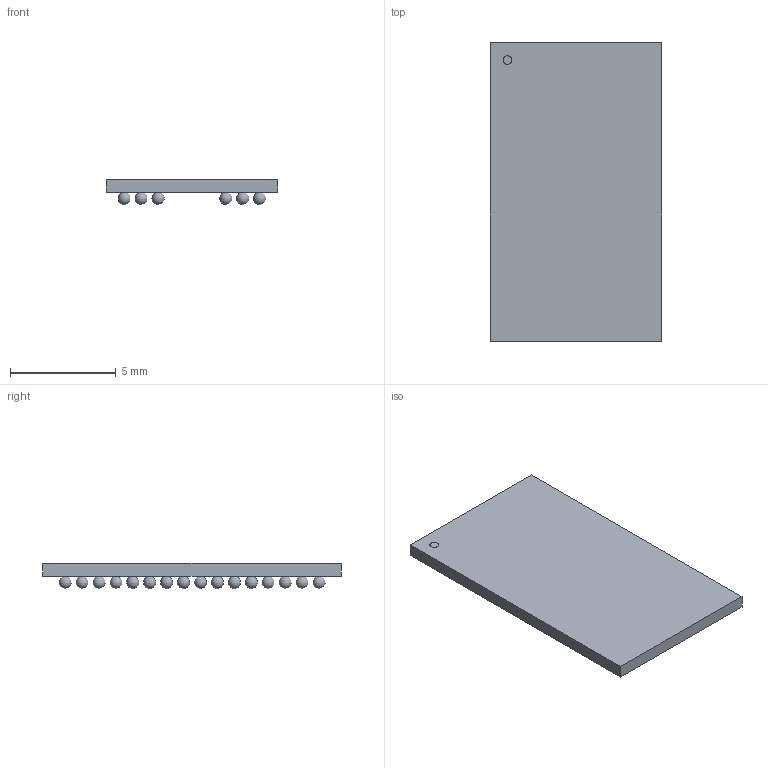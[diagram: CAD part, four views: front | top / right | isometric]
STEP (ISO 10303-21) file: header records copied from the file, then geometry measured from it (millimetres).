
FILE_DESCRIPTION(('STEP AP214'),'1');
FILE_NAME('FBGA96_MRN','2022-04-16T06:44:55',(''),(''),'','','');
FILE_SCHEMA(('AUTOMOTIVE_DESIGN'));
Length unit declared in the file: millimetre
Products named in the file (1): product
Bounding box: 8.1 x 14.1 x 1.2 mm (x, y, z)
Volume: 79.8 mm3; surface area: 358.7 mm2
Topology: 98 solids, 98 shells, 105 faces, 303 edges, 202 vertices
Faces by surface type: sphere 96, plane 8, cylinder 1
Full cylindrical faces by diameter (mm): 0.405 x1
Entity records: 1120 total; most frequent: DIRECTION 230, CARTESIAN_POINT 119, AXIS2_PLACEMENT_3D 109, STYLED_ITEM 105, ADVANCED_FACE 105, MANIFOLD_SOLID_BREP 98, CLOSED_SHELL 98, SPHERICAL_SURFACE 96
